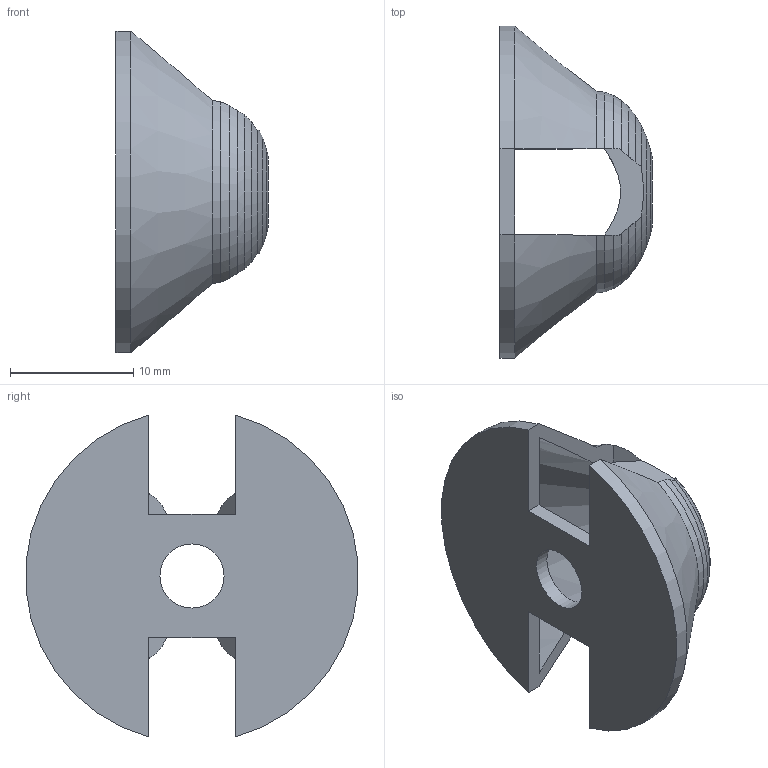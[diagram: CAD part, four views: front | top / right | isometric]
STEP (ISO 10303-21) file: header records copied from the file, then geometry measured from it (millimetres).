
FILE_DESCRIPTION(('SkyG Speed 90B - revision C6B-24 - 2026-10-17','SP-spinner'),'2;1');
FILE_NAME('SP-spinner_C6B-24','2026-10-17T19:57:43',('Author'),( 'Open CASCADE'),'Open CASCADE STEP processor 7.9','Open CASCADE 7.9' ,'Unknown');
FILE_SCHEMA(('AUTOMOTIVE_DESIGN { 1 0 10303 214 1 1 1 1 }'));
Length unit declared in the file: millimetre
Products named in the file (1): SP-spinner C6B-24
Bounding box: 12.33 x 26.9 x 26.08 mm (x, y, z)
Volume: 1228.8 mm3; surface area: 2247.2 mm2
Topology: 1 solids, 1 shells, 35 faces, 108 edges, 71 vertices
Faces by surface type: cone 18, plane 14, cylinder 3
Full cylindrical faces by diameter (mm): 5.2 x1
Entity records: 2770 total; most frequent: CARTESIAN_POINT 811, DIRECTION 346, ORIENTED_EDGE 216, PCURVE 216, DEFINITIONAL_REPRESENTATION 216, LINE 124, VECTOR 124, EDGE_CURVE 108
